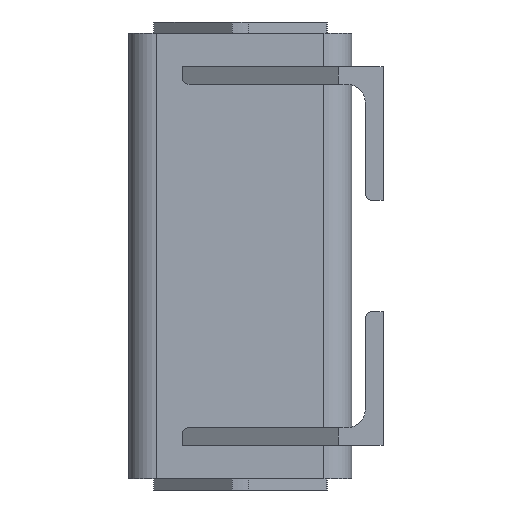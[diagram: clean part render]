
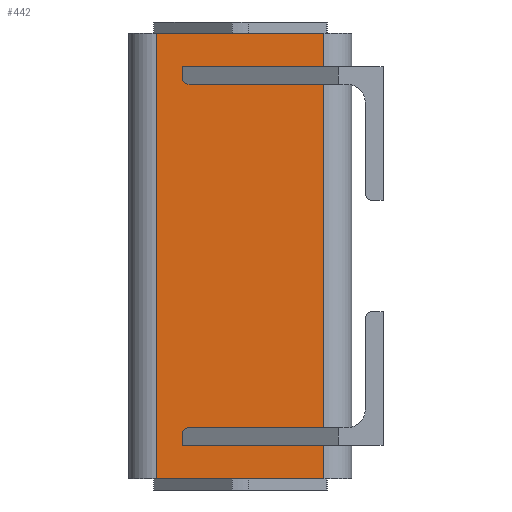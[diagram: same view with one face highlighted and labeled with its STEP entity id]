
A CAD part, left-side view. The second image highlights one B-rep face of the part: STEP entity #442.
In plain terms, the highlighted planar face has unit normal (-1, 0, 0).
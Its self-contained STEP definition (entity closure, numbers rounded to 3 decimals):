
#384=CARTESIAN_POINT('',(-50.,-37.5,200.0));
#385=VERTEX_POINT('',#384);
#393=CARTESIAN_POINT('',(-50.,-37.5,0.0));
#394=VERTEX_POINT('',#393);
#395=CARTESIAN_POINT('',(-50.,-37.5,0.0));
#396=DIRECTION('',(0.0,0.0,1.0));
#397=VECTOR('',#396,200.0);
#398=LINE('',#395,#397);
#399=EDGE_CURVE('',#394,#385,#398,.T.);
#412=CARTESIAN_POINT('',(-50.,-37.5,0.0));
#413=DIRECTION('',(-1.0,0.0,0.0));
#414=DIRECTION('',(0.0,0.0,1.0));
#415=AXIS2_PLACEMENT_3D('',#412,#413,#414);
#416=PLANE('',#415);
#417=CARTESIAN_POINT('',(-50.,37.5,200.0));
#418=VERTEX_POINT('',#417);
#419=CARTESIAN_POINT('',(-50.,-37.5,200.0));
#420=DIRECTION('',(0.0,1.0,0.0));
#421=VECTOR('',#420,75.);
#422=LINE('',#419,#421);
#423=EDGE_CURVE('',#385,#418,#422,.T.);
#424=ORIENTED_EDGE('',*,*,#423,.T.);
#425=CARTESIAN_POINT('',(-50.,37.5,0.0));
#426=VERTEX_POINT('',#425);
#427=CARTESIAN_POINT('',(-50.,37.5,0.0));
#428=DIRECTION('',(0.0,0.0,1.0));
#429=VECTOR('',#428,200.0);
#430=LINE('',#427,#429);
#431=EDGE_CURVE('',#426,#418,#430,.T.);
#432=ORIENTED_EDGE('',*,*,#431,.F.);
#433=CARTESIAN_POINT('',(-50.,37.5,0.0));
#434=DIRECTION('',(0.0,-1.0,0.0));
#435=VECTOR('',#434,75.);
#436=LINE('',#433,#435);
#437=EDGE_CURVE('',#426,#394,#436,.T.);
#438=ORIENTED_EDGE('',*,*,#437,.T.);
#439=ORIENTED_EDGE('',*,*,#399,.T.);
#440=EDGE_LOOP('',(#424,#432,#438,#439));
#441=FACE_OUTER_BOUND('',#440,.T.);
#442=ADVANCED_FACE('',(#441),#416,.T.);
